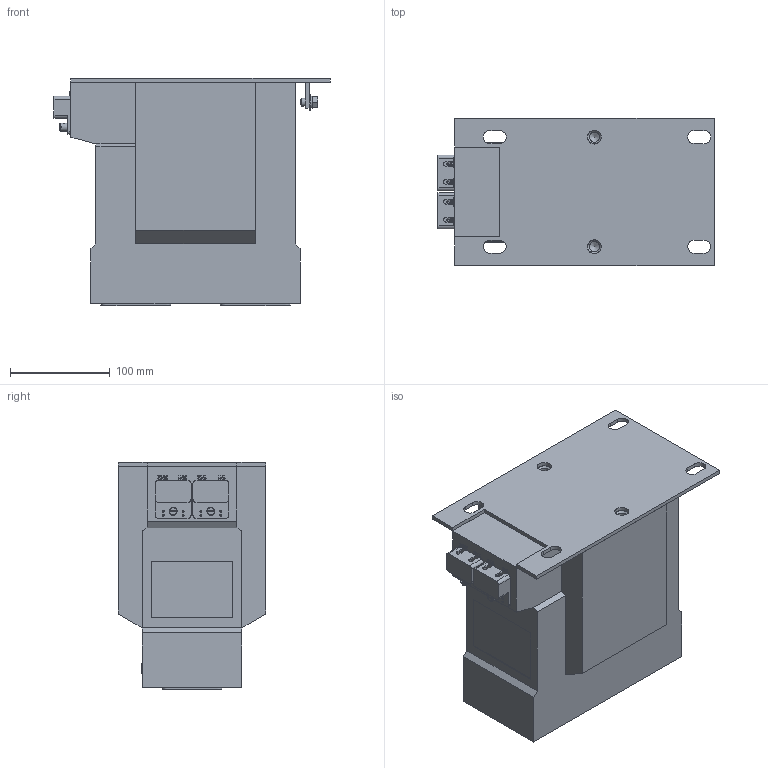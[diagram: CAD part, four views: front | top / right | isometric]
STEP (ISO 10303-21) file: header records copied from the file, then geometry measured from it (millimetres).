
FILE_DESCRIPTION(('STEP AP242'), '1');
FILE_NAME('ÒËÎ-10 Ì13 2 îáì.', '', ('UNSPECIFIED'), ('UNSPECIFIED'), 'C3D Converter', 'C3D Toolkit', '');
FILE_SCHEMA(('AP242_MANAGED_MODEL_BASED_3D_ENGINEERING_MIM_LF { 1 0 10303 442 1 1 4 }'));
Length unit declared in the file: millimetre
Products named in the file (11): Втулка ЭК.8.211.004
Assembly tree (20 placements, depth 3):
  (unnamed)
    (unnamed)
    Втулка ЭК.8.211.004  x4
    (unnamed)  x2
    (unnamed)  x2
    (unnamed)  x4
      (unnamed)
      (unnamed)
      (unnamed)
    (unnamed)  x2
    (unnamed)  x2
Bounding box: 277 x 148 x 228 mm (x, y, z)
Volume: 5652769.9 mm3; surface area: 269968.3 mm2
Topology: 25 solids, 29 shells, 1379 faces, 3600 edges, 2353 vertices
Faces by surface type: plane 719, cylinder 603, cone 41, torus 12, sphere 4
Full cylindrical faces by diameter (mm): 2 x8, 2.5 x2, 4 x4, 4.134 x4, 4.917 x4, 5 x2, 5.5 x2, 6 x8, 6.4 x4, 6.8 x4, 8 x3, 10 x16, 10.106 x2, 11.16 x4, 12 x8, 14 x2, 16 x9
Entity records: 44347 total; most frequent: CARTESIAN_POINT 7405, DIRECTION 6380, ORIENTED_EDGE 5906, EDGE_CURVE 2953, AXIS2_PLACEMENT_3D 2312, VERTEX_POINT 1991, LINE 1756, VECTOR 1756
